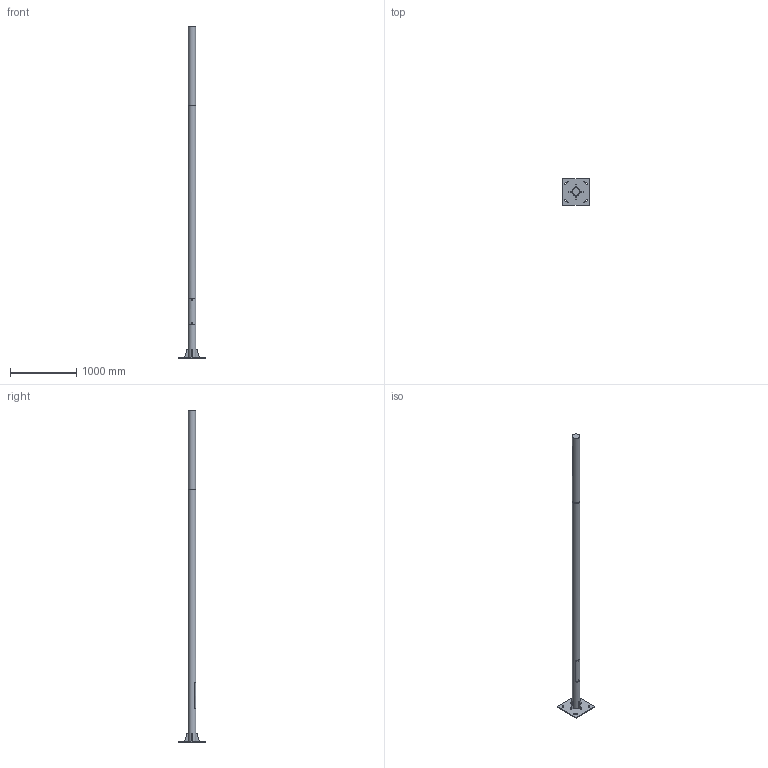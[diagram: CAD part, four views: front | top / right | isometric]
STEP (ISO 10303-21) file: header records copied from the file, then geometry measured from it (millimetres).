
FILE_DESCRIPTION(/* description */ (''),/* implementation_level */ '2;1');
FILE_NAME(/* name */ 'Lester 5000mm.step',/* time_stamp */ '2026-07-23T23:02:36+03:00',/* author */ (''),/* organization */ (''),/* preprocessor_version */ 'ST-DEVELOPER v20.1',/* originating_system */ 'Autodesk Translation Framework v15.8.0.0',/* authorisation */ '');
FILE_SCHEMA (('AUTOMOTIVE_DESIGN { 1 0 10303 214 3 1 1 }'));
Length unit declared in the file: millimetre
Products named in the file (1): Lester 5000mm
Bounding box: 400 x 400 x 5000 mm (x, y, z)
Volume: 52887609.4 mm3; surface area: 2229409.2 mm2
Topology: 8 solids, 8 shells, 105 faces, 244 edges, 159 vertices
Faces by surface type: plane 52, cylinder 27, bspline 24, cone 2
Full cylindrical faces by diameter (mm): 100 x1, 110 x1, 115 x1
Entity records: 5155 total; most frequent: CARTESIAN_POINT 2841, ORIENTED_EDGE 488, DIRECTION 411, EDGE_CURVE 244, VERTEX_POINT 159, LINE 137, VECTOR 137, AXIS2_PLACEMENT_3D 137
